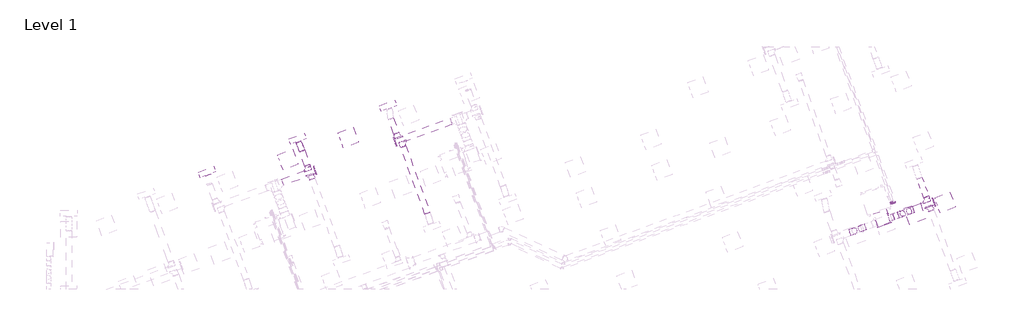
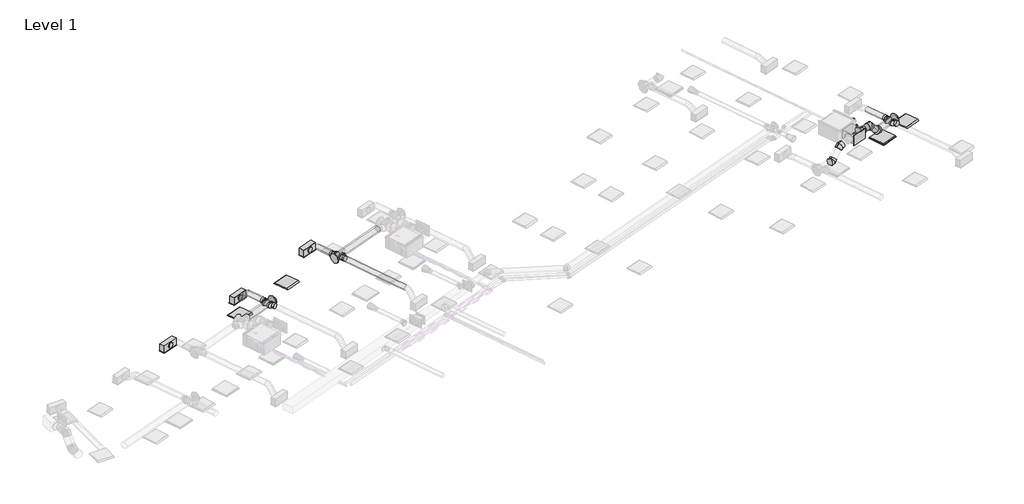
# One storey, part 26 of 30: 15 duct fittings, 11 duct segments, 6 pipe fittings, 4 air terminals, 4 pipe segments, 3 light fixtures.
"""IFC4 building model written with IfcOpenShell, lengths in millimetres."""

from ifc_helpers import new_model, si_unit, point, frame, frame_2d, origin, place, context, project, spatial, polyline, circle_curve, ellipse_curve, trimmed, segment, composite_curve, outline, extrude, transform, mapped, element, save
from ifc_brep_helpers import plane_surface, cylinder_surface, advanced_brep
from components import return_grille_rectangular_hosted_standard_7b12617c, supply_diffuser_with_plenum_linear_slot_hosted_8c379eed, dw144_rectangular_blank_end_standard_1669e3e3, dw144_round_blank_end_standard_e3d0b58b, dw144_round_segmented_bend_slip_joint_standard_636bd9c1, dw144_round_shoe_branch_slip_joint1_standard_2_15a2edd8, dw144_round_shoe_branch_slip_joint1_standard_2_559552f4, dw144_round_shoe_branch_slip_joint1_standard_2_4a92c8a1, light_fixture_1c7c1157, elbow_threaded_gmi_standard_b4aa7741, socket_reducing_threaded_gmi_standard_0a4076b8

model = new_model("IFC4")

# Units and contexts
model_context = context("Model", 3, world=origin())
ifc_project = project(units=[si_unit("LENGTHUNIT", "METRE", prefix="MILLI")], contexts=[model_context])

# Site, building, storey
site = spatial("IfcSite", under=ifc_project)
building = spatial("IfcBuilding", under=site)
storey = spatial("IfcBuildingStorey", under=building, Name="Level 1", Elevation=3900.0)

# Air terminals
placement = place(None, origin())
return_grille_rectangular_hosted_standard_shape = return_grille_rectangular_hosted_standard_7b12617c(model_context)
element("IfcAirTerminal", 1, ObjectType="Return Grille - Rectangular - Hosted : Standard", at=placement, inside=storey, context=model_context, shape_type="MappedRepresentation", body=[
    mapped(return_grille_rectangular_hosted_standard_shape, transform((62341.090285, 14748.7465668, 6700.0), x_axis=(0.939692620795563, 0.3420201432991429, 0.0), y_axis=(0.3420201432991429, -0.939692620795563, 0.0), z_axis=(0.0, 0.0, -1.0))),
])
supply_diffuser_with_plenum_linear_slot_hosted_shape = supply_diffuser_with_plenum_linear_slot_hosted_8c379eed(model_context)
element("IfcAirTerminal", 2, ObjectType="Supply Diffuser with Plenum - Linear Slot - Hosted : 24\" x 8\"-200 In Inlet  4-Slot", at=placement, inside=storey, context=model_context, shape_type="MappedRepresentation", body=[
    mapped(supply_diffuser_with_plenum_linear_slot_hosted_shape, transform((35915.3297037, 16300.7234338, 6500.0), x_axis=(-0.9396926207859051, -0.3420201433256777, 0.0), y_axis=(-0.3420201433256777, 0.9396926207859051, 0.0), z_axis=(0.0, 0.0, -1.0))),
])
element("IfcAirTerminal", 3, ObjectType="Supply Diffuser with Plenum - Linear Slot - Hosted : 24\" x 8\"-200 In Inlet  4-Slot", at=placement, inside=storey, context=model_context, shape_type="MappedRepresentation", body=[
    mapped(supply_diffuser_with_plenum_linear_slot_hosted_shape, transform((39293.7706156, 17542.574693, 6500.0), x_axis=(-0.9396926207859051, -0.3420201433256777, 0.0), y_axis=(-0.3420201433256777, 0.9396926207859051, 0.0), z_axis=(0.0, 0.0, -1.0))),
])
element("IfcAirTerminal", 4, ObjectType="Supply Diffuser with Plenum - Linear Slot - Hosted : 24\" x 8\"-200 In Inlet  4-Slot", at=placement, inside=storey, context=model_context, shape_type="MappedRepresentation", body=[
    mapped(supply_diffuser_with_plenum_linear_slot_hosted_shape, transform((42674.4758588, 18775.4888623, 6500.0), x_axis=(-0.9396926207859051, -0.3420201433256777, 0.0), y_axis=(-0.3420201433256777, 0.9396926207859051, 0.0), z_axis=(0.0, 0.0, -1.0))),
])

# Duct fittings
dw144_rectangular_blank_end_standard_shape = dw144_rectangular_blank_end_standard_1669e3e3(model_context)
element("IfcDuctFitting", 5, ObjectType="DW144 Rectangular Blank End : Standard", at=placement, inside=storey, context=model_context, shape_type="MappedRepresentation", body=[
    mapped(dw144_rectangular_blank_end_standard_shape, transform((61207.3958712, 14336.1155454, 7369.575), x_axis=(0.34202014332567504, -0.9396926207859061, 0.0), y_axis=(0.9396926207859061, 0.34202014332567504, 0.0), z_axis=(0.0, 0.0, 1.0))),
])
dw144_round_blank_end_standard_shape = dw144_round_blank_end_standard_e3d0b58b(model_context)
element("IfcDuctFitting", 6, ObjectType="DW144 Round Blank End : Standard", at=placement, inside=storey, context=model_context, shape_type="MappedRepresentation", body=[
    mapped(dw144_round_blank_end_standard_shape, transform((39936.3185675, 16357.4162175, 6972.2088531), x_axis=(0.9396926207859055, 0.3420201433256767, 0.0), y_axis=(-0.3420201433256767, 0.9396926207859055, 0.0), z_axis=(0.0, 0.0, 1.0))),
])
element("IfcDuctFitting", 7, ObjectType="DW144 Round Blank End : Standard", at=placement, inside=storey, context=model_context, shape_type="MappedRepresentation", body=[
    mapped(dw144_round_blank_end_standard_shape, transform((42948.5285031, 17437.6115173, 6972.2088531), x_axis=(-0.9396926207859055, -0.3420201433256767, 0.0), y_axis=(0.3420201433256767, -0.9396926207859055, 0.0), z_axis=(0.0, 0.0, 1.0))),
])
element("IfcDuctFitting", 8, ObjectType="DW144 Round Blank End : Standard", at=placement, inside=storey, context=model_context, shape_type="MappedRepresentation", body=[
    mapped(dw144_round_blank_end_standard_shape, transform((63040.2710121, 15178.5710827, 6972.2088531), x_axis=(0.9396926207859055, 0.3420201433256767, 0.0), y_axis=(-0.3420201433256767, 0.9396926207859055, 0.0), z_axis=(0.0, 0.0, 1.0))),
])
dw144_round_segmented_bend_slip_joint_standard_shape = dw144_round_segmented_bend_slip_joint_standard_636bd9c1(model_context)
element("IfcDuctFitting", 9, ObjectType="DW144 Round Segmented Bend - Slip Joint : Standard", at=placement, inside=storey, context=model_context, shape_type="MappedRepresentation", body=[
    mapped(dw144_round_segmented_bend_slip_joint_standard_shape, transform((62192.3208978, 14869.9424809, 6972.2088531), x_axis=(0.6644630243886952, 0.24184476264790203, -0.7071067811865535), y_axis=(0.6644630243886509, 0.2418447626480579, 0.7071067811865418), z_axis=(0.3420201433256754, -0.939692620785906, 0.0))),
])
element("IfcDuctFitting", 10, ObjectType="DW144 Round Segmented Bend - Slip Joint : Standard", at=placement, inside=storey, context=model_context, shape_type="MappedRepresentation", body=[
    mapped(dw144_round_segmented_bend_slip_joint_standard_shape, transform((61818.9188618, 14734.0352544, 7369.575), x_axis=(0.9396926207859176, 0.3420201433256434, 0.0), y_axis=(0.0, 0.0, -1.0), z_axis=(-0.3420201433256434, 0.9396926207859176, 0.0))),
])
element("IfcDuctFitting", 11, ObjectType="DW144 Round Segmented Bend - Slip Joint : Standard", at=placement, inside=storey, context=model_context, shape_type="MappedRepresentation", body=[
    mapped(dw144_round_segmented_bend_slip_joint_standard_shape, transform((60017.1840423, 14078.2574101, 6972.2088531), x_axis=(-0.6644630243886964, -0.24184476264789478, -0.7071067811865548), y_axis=(-0.6644630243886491, -0.24184476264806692, 0.7071067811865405), z_axis=(-0.34202014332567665, 0.9396926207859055, 0.0))),
])
element("IfcDuctFitting", 12, ObjectType="DW144 Round Segmented Bend - Slip Joint : Standard", at=placement, inside=storey, context=model_context, shape_type="MappedRepresentation", body=[
    mapped(dw144_round_segmented_bend_slip_joint_standard_shape, transform((60390.5860782, 14214.1646366, 7369.575), x_axis=(-0.9396926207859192, -0.3420201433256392, 0.0), y_axis=(0.0, 0.0, -1.0000000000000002), z_axis=(0.3420201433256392, -0.9396926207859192, 0.0))),
])
dw144_round_shoe_branch_slip_joint1_standard_2_shape = dw144_round_shoe_branch_slip_joint1_standard_2_15a2edd8(model_context)
element("IfcDuctFitting", 13, ObjectType="DW144 Round Shoe Branch - Slip Joint1 : Standard 2", at=placement, inside=storey, context=model_context, shape_type="MappedRepresentation", body=[
    mapped(dw144_round_shoe_branch_slip_joint1_standard_2_shape, transform((39717.3209662, 16410.7298308, 6972.2088531), x_axis=(-0.3420201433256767, 0.9396926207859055, 0.0), y_axis=(0.9396926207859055, 0.3420201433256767, 0.0), z_axis=(0.0, 0.0, -1.0))),
])
element("IfcDuctFitting", 14, ObjectType="DW144 Round Shoe Branch - Slip Joint1 : Standard 2", at=placement, inside=storey, context=model_context, shape_type="MappedRepresentation", body=[
    mapped(dw144_round_shoe_branch_slip_joint1_standard_2_shape, transform((39802.826002, 16175.8066756, 6972.2088531), x_axis=(0.3420201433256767, -0.9396926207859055, 0.0), y_axis=(0.9396926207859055, 0.3420201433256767, 0.0), z_axis=(0.0, 0.0, 1.0))),
])
element("IfcDuctFitting", 15, ObjectType="DW144 Round Shoe Branch - Slip Joint1 : Standard 2", at=placement, inside=storey, context=model_context, shape_type="MappedRepresentation", body=[
    mapped(dw144_round_shoe_branch_slip_joint1_standard_2_shape, transform((62821.2734108, 15231.884696, 6972.2088531), x_axis=(-0.3420201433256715, 0.9396926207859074, 0.0), y_axis=(0.9396926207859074, 0.3420201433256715, 0.0), z_axis=(0.0, 0.0, -1.0))),
])
element("IfcDuctFitting", 16, ObjectType="DW144 Round Shoe Branch - Slip Joint1 : Standard 2", at=placement, inside=storey, context=model_context, shape_type="MappedRepresentation", body=[
    mapped(dw144_round_shoe_branch_slip_joint1_standard_2_shape, transform((62906.7784467, 14996.9615408, 6972.2088531), x_axis=(0.3420201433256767, -0.9396926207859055, 0.0), y_axis=(0.9396926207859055, 0.3420201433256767, 0.0), z_axis=(0.0, 0.0, 1.0))),
])
dw144_round_shoe_branch_slip_joint1_standard_2_2_shape = dw144_round_shoe_branch_slip_joint1_standard_2_559552f4(model_context)
element("IfcDuctFitting", 17, ObjectType="DW144 Round Shoe Branch - Slip Joint1 : Standard 2", at=placement, inside=storey, context=model_context, shape_type="MappedRepresentation", body=[
    mapped(dw144_round_shoe_branch_slip_joint1_standard_2_2_shape, transform((43036.855796, 17602.7822443, 6972.2088531), x_axis=(-0.3420201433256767, 0.9396926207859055, 0.0), y_axis=(0.9396926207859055, 0.3420201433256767, 0.0), z_axis=(0.0, 0.0, -1.0))),
])
element("IfcDuctFitting", 18, ObjectType="DW144 Round Shoe Branch - Slip Joint1 : Standard 2", at=placement, inside=storey, context=model_context, shape_type="MappedRepresentation", body=[
    mapped(dw144_round_shoe_branch_slip_joint1_standard_2_2_shape, transform((43190.912986, 17392.8100327, 6972.2088531), x_axis=(0.3420201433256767, -0.9396926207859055, 0.0), y_axis=(0.9396926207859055, 0.3420201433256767, 0.0), z_axis=(0.0, 0.0, 1.0))),
])
dw144_round_shoe_branch_slip_joint1_standard_2_3_shape = dw144_round_shoe_branch_slip_joint1_standard_2_4a92c8a1(model_context)
element("IfcDuctFitting", 19, ObjectType="DW144 Round Shoe Branch - Slip Joint1 : Standard 2", at=placement, inside=storey, context=model_context, shape_type="MappedRepresentation", body=[
    mapped(dw144_round_shoe_branch_slip_joint1_standard_2_3_shape, transform((61385.964698, 14576.452826, 7369.575), x_axis=(0.9396926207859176, 0.3420201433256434, 0.0), y_axis=(0.3420201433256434, -0.9396926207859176, 0.0), z_axis=(0.0, 0.0, -1.0))),
])

# Duct segments
element("IfcDuctSegment", 20, ObjectType="DW144 Flanged Med Radius Bend / Shoe Branch", at=placement, inside=storey, context=model_context, shape_type="SweptSolid", body=[
    extrude(outline(polyline([(60794.7590495, 14738.8747953), (61264.6053599, 14909.884867), (61442.3190264, 14421.6205812), (60972.472716, 14250.6105095), (60794.7590495, 14738.8747953)])), frame((0.0, 0.0, 7194.575), z_axis=(0.0, 0.0, 1.0), x_axis=(1.0, 0.0, 0.0)), (0.0, 0.0, 1.0), 350.0),
])
element("IfcDuctSegment", 21, ObjectType="DW144 Segmented Bend / Shoe Branch", at=placement, inside=storey, context=model_context, shape_type="SweptSolid", body=[
    extrude(outline(composite_curve([segment(trimmed(circle_curve(frame_2d((0.0, 125.0)), 125.0), [point((125.0, 125.0))], [point((0.0, 0.0))], False, "CARTESIAN"), True, "CONTINUOUS"), segment(trimmed(circle_curve(frame_2d((0.0, 125.0)), 125.0), [point((0.0, 0.0))], [point((-125.0, 125.0))], False, "CARTESIAN"), True, "CONTINUOUS"), segment(trimmed(circle_curve(frame_2d((0.0, 125.0)), 125.0), [point((-125.0, 125.0))], [point((0.0, 250.0))], False, "CARTESIAN"), True, "CONTINUOUS"), segment(trimmed(circle_curve(frame_2d((0.0, 125.0)), 125.0), [point((0.0, 250.0))], [point((125.0, 125.0))], False, "CARTESIAN"), True, "CONTINUOUS")], self_intersect=False)), frame((38741.1276812, 15922.4023106, 7097.2088531), z_axis=(0.9396926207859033, 0.3420201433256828, 0.0), x_axis=(0.3420201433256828, -0.9396926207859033, 0.0)), (0.0, 0.0, 1.0), 1271.8955751),
])
element("IfcDuctSegment", 22, ObjectType="DW144 Segmented Bend / Shoe Branch", at=placement, inside=storey, context=model_context, shape_type="SweptSolid", body=[
    extrude(outline(composite_curve([segment(trimmed(circle_curve(frame_2d((0.0, 100.0)), 100.0), [point((100.0, 100.0))], [point((0.0, 0.0))], False, "CARTESIAN"), True, "CONTINUOUS"), segment(trimmed(circle_curve(frame_2d((0.0, 100.0)), 100.0), [point((0.0, 0.0))], [point((-100.0, 100.0))], False, "CARTESIAN"), True, "CONTINUOUS"), segment(trimmed(circle_curve(frame_2d((0.0, 100.0)), 100.0), [point((-100.0, 100.0))], [point((0.0, 200.0))], False, "CARTESIAN"), True, "CONTINUOUS"), segment(trimmed(circle_curve(frame_2d((0.0, 100.0)), 100.0), [point((0.0, 200.0))], [point((100.0, 100.0))], False, "CARTESIAN"), True, "CONTINUOUS")], self_intersect=False)), frame((39666.0179447, 16551.683724, 7072.2088531), z_axis=(-0.3420201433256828, 0.9396926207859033, 0.0), x_axis=(0.9396926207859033, 0.3420201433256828, 0.0)), (0.0, 0.0, 1.0), 574.8150783),
])
element("IfcDuctSegment", 23, ObjectType="DW144 Segmented Bend / Shoe Branch", at=placement, inside=storey, context=model_context, shape_type="SweptSolid", body=[
    extrude(outline(composite_curve([segment(trimmed(circle_curve(frame_2d((0.0, -125.0)), 125.0), [point((-125.0, -125.0))], [point((0.0, 0.0))], False, "CARTESIAN"), True, "CONTINUOUS"), segment(trimmed(circle_curve(frame_2d((0.0, -125.0)), 125.0), [point((0.0, 0.0))], [point((125.0, -125.0))], False, "CARTESIAN"), True, "CONTINUOUS"), segment(trimmed(circle_curve(frame_2d((0.0, -125.0)), 125.0), [point((125.0, -125.0))], [point((0.0, -250.0))], False, "CARTESIAN"), True, "CONTINUOUS"), segment(trimmed(circle_curve(frame_2d((0.0, -125.0)), 125.0), [point((0.0, -250.0))], [point((-125.0, -125.0))], False, "CARTESIAN"), True, "CONTINUOUS")], self_intersect=False)), frame((42948.5285031, 17437.6115173, 6847.2088531), z_axis=(0.9396926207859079, 0.3420201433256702, 0.0), x_axis=(0.3420201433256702, -0.9396926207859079, 0.0)), (0.0, 0.0, 1.0), 2211.3668834),
])
element("IfcDuctSegment", 24, ObjectType="DW144 Segmented Bend / Shoe Branch", at=placement, inside=storey, context=model_context, shape_type="SweptSolid", body=[
    extrude(outline(composite_curve([segment(trimmed(circle_curve(frame_2d((0.0, -100.0)), 100.0), [point((-100.0, -100.0))], [point((0.0, 0.0))], False, "CARTESIAN"), True, "CONTINUOUS"), segment(trimmed(circle_curve(frame_2d((0.0, -100.0)), 100.0), [point((0.0, 0.0))], [point((100.0, -100.0))], False, "CARTESIAN"), True, "CONTINUOUS"), segment(trimmed(circle_curve(frame_2d((0.0, -100.0)), 100.0), [point((100.0, -100.0))], [point((0.0, -200.0))], False, "CARTESIAN"), True, "CONTINUOUS"), segment(trimmed(circle_curve(frame_2d((0.0, -100.0)), 100.0), [point((0.0, -200.0))], [point((-100.0, -100.0))], False, "CARTESIAN"), True, "CONTINUOUS")], self_intersect=False)), frame((42985.5527745, 17743.7361374, 6872.2088531), z_axis=(-0.34202014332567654, 0.9396926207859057, 0.0), x_axis=(0.9396926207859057, 0.34202014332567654, 0.0)), (0.0, 0.0, 1.0), 590.0),
])
element("IfcDuctSegment", 25, ObjectType="DW144 Segmented Bend / Shoe Branch", at=placement, inside=storey, context=model_context, shape_type="SweptSolid", body=[
    extrude(outline(composite_curve([segment(trimmed(circle_curve(frame_2d((0.0, 100.0)), 100.0), [point((100.0, 100.0))], [point((0.0, 0.0))], False, "CARTESIAN"), True, "CONTINUOUS"), segment(trimmed(circle_curve(frame_2d((0.0, 100.0)), 100.0), [point((0.0, 0.0))], [point((-100.0, 100.0))], False, "CARTESIAN"), True, "CONTINUOUS"), segment(trimmed(circle_curve(frame_2d((0.0, 100.0)), 100.0), [point((-100.0, 100.0))], [point((0.0, 200.0))], False, "CARTESIAN"), True, "CONTINUOUS"), segment(trimmed(circle_curve(frame_2d((0.0, 100.0)), 100.0), [point((0.0, 200.0))], [point((100.0, 100.0))], False, "CARTESIAN"), True, "CONTINUOUS")], self_intersect=False)), frame((44148.5693873, 14761.6706945, 7072.2088531), z_axis=(-0.34202014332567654, 0.9396926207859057, 0.0), x_axis=(0.9396926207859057, 0.34202014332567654, 0.0)), (0.0, 0.0, 1.0), 2650.0),
])
element("IfcDuctSegment", 26, ObjectType="DW144 Segmented Bend / Shoe Branch", at=placement, inside=storey, context=model_context, shape_type="SweptSolid", body=[
    extrude(outline(composite_curve([segment(trimmed(circle_curve(frame_2d((0.0, -125.0)), 125.0), [point((-125.0, -125.0))], [point((0.0, 0.0))], False, "CARTESIAN"), True, "CONTINUOUS"), segment(trimmed(circle_curve(frame_2d((0.0, -125.0)), 125.0), [point((0.0, 0.0))], [point((125.0, -125.0))], False, "CARTESIAN"), True, "CONTINUOUS"), segment(trimmed(circle_curve(frame_2d((0.0, -125.0)), 125.0), [point((125.0, -125.0))], [point((0.0, -250.0))], False, "CARTESIAN"), True, "CONTINUOUS"), segment(trimmed(circle_curve(frame_2d((0.0, -125.0)), 125.0), [point((0.0, -250.0))], [point((-125.0, -125.0))], False, "CARTESIAN"), True, "CONTINUOUS")], self_intersect=False)), frame((62289.6292548, 14905.3598264, 6847.2088531), z_axis=(0.9396926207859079, 0.3420201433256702, 0.0), x_axis=(0.3420201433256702, -0.9396926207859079, 0.0)), (0.0, 0.0, 1.0), 798.8162732),
])
element("IfcDuctSegment", 27, ObjectType="DW144 Segmented Bend / Shoe Branch", at=placement, inside=storey, context=model_context, shape_type="SweptSolid", body=[
    extrude(outline(composite_curve([segment(trimmed(circle_curve(frame_2d((0.0, 100.0)), 100.0), [point((100.0, 100.0))], [point((0.0, 0.0))], False, "CARTESIAN"), True, "CONTINUOUS"), segment(trimmed(circle_curve(frame_2d((0.0, 100.0)), 100.0), [point((0.0, 0.0))], [point((-100.0, 100.0))], False, "CARTESIAN"), True, "CONTINUOUS"), segment(trimmed(circle_curve(frame_2d((0.0, 100.0)), 100.0), [point((-100.0, 100.0))], [point((0.0, 200.0))], False, "CARTESIAN"), True, "CONTINUOUS"), segment(trimmed(circle_curve(frame_2d((0.0, 100.0)), 100.0), [point((0.0, 200.0))], [point((100.0, 100.0))], False, "CARTESIAN"), True, "CONTINUOUS")], self_intersect=False)), frame((62769.9703893, 15372.8385891, 7072.2088531), z_axis=(-0.3420201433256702, 0.9396926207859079, 0.0), x_axis=(0.9396926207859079, 0.3420201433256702, 0.0)), (0.0, 0.0, 1.0), 750.0),
])
element("IfcDuctSegment", 28, ObjectType="DW144 Segmented Bend / Shoe Branch", at=placement, inside=storey, context=model_context, shape_type="SweptSolid", body=[
    extrude(outline(composite_curve([segment(trimmed(circle_curve(frame_2d((0.0, 125.0)), 125.0), [point((125.0, 125.0))], [point((0.0, 0.0))], False, "CARTESIAN"), True, "CONTINUOUS"), segment(trimmed(circle_curve(frame_2d((0.0, 125.0)), 125.0), [point((0.0, 0.0))], [point((-125.0, 125.0))], False, "CARTESIAN"), True, "CONTINUOUS"), segment(trimmed(circle_curve(frame_2d((0.0, 125.0)), 125.0), [point((-125.0, 125.0))], [point((0.0, 250.0))], False, "CARTESIAN"), True, "CONTINUOUS"), segment(trimmed(circle_curve(frame_2d((0.0, 125.0)), 125.0), [point((0.0, 250.0))], [point((125.0, 125.0))], False, "CARTESIAN"), True, "CONTINUOUS")], self_intersect=False)), frame((61550.4109066, 14636.3063511, 7494.575), z_axis=(0.9396926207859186, 0.3420201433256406, 0.0), x_axis=(0.3420201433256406, -0.9396926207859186, 0.0)), (0.0, 0.0, 1.0), 182.1868071),
])
element("IfcDuctSegment", 29, ObjectType="DW144 Segmented Bend / Shoe Branch", at=placement, inside=storey, context=model_context, shape_type="SweptSolid", body=[
    extrude(outline(composite_curve([segment(trimmed(circle_curve(frame_2d((0.0, -125.0)), 125.0), [point((57.2076922, -236.1408113))], [point((-111.1408113, -182.2076923))], False, "CARTESIAN"), True, "CONTINUOUS"), segment(trimmed(circle_curve(frame_2d((0.0, -125.0)), 125.0), [point((-111.1408113, -182.2076923))], [point((-57.2076923, -13.8591886))], False, "CARTESIAN"), True, "CONTINUOUS"), segment(trimmed(circle_curve(frame_2d((0.0, -125.0)), 125.0), [point((-57.2076923, -13.8591886))], [point((111.1408113, -67.7923077))], False, "CARTESIAN"), True, "CONTINUOUS"), segment(trimmed(circle_curve(frame_2d((0.0, -125.0)), 125.0), [point((111.1408113, -67.7923077))], [point((57.2076922, -236.1408113))], False, "CARTESIAN"), True, "CONTINUOUS")], self_intersect=False)), frame((62123.5134987, 14963.1722168, 7085.884105), z_axis=(-0.6644630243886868, -0.2418447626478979, 0.7071067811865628), x_axis=(0.7473211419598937, -0.21503058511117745, 0.6287073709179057)), (0.0, 0.0, 1.0), 354.8538129),
])
element("IfcDuctSegment", 30, ObjectType="Flex - Round", at=placement, inside=storey, context=model_context, shape_type="AdvancedBrep", body=[
    advanced_brep(
    [(39375.4503472, 17057.631197, 6972.2088531), (39469.4196093, 17091.8332113, 6872.2088531), (39563.3888713, 17126.0352256, 6972.2088531), (39469.4196093, 17091.8332113, 7072.2088531), (39366.3000724, 17082.7713704, 6972.2088531), (39468.3712519, 17094.7135495, 6872.2088531), (39553.6634713, 17152.7555425, 6972.2088531), (39451.5922918, 17140.8133634, 7072.2088531), (39243.88775, 17387.2462998, 6654.4), (39337.8570121, 17421.4483142, 6754.4), (39431.8262742, 17455.6503285, 6654.4), (39337.8570121, 17421.4483142, 6554.4), (39354.6030432, 17113.2033068, 6955.1920761), (39468.0578227, 17095.5289923, 6871.7528779), (39541.1583625, 17185.2898444, 6954.016486), (39427.703583, 17202.9641589, 7037.4556843), (39336.031748, 17159.7315718, 6910.3303741), (39455.7796156, 17126.2906417, 6842.0930583), (39522.1403442, 17232.9373231, 6908.0756586), (39402.3924766, 17266.3782532, 6976.3129745), (39318.9928732, 17200.3636656, 6848.646534), (39441.8182951, 17159.583784, 6791.5505271), (39504.8830052, 17274.090382, 6845.6009381), (39382.0575833, 17314.8702636, 6902.6969449), (39302.3936162, 17239.1911435, 6781.0079151), (39425.2190381, 17198.4112619, 6723.9119082), (39488.2837482, 17312.9178598, 6777.9623192), (39365.4583263, 17353.6977415, 6835.0583261), (39285.1362771, 17280.3442024, 6718.5331946), (39404.8841447, 17246.9032723, 6650.2958787), (39471.2448734, 17353.5499537, 6716.278479), (39351.4970058, 17386.9908838, 6784.5157949), (39266.1182589, 17327.9916811, 6672.5923671), (39379.5730383, 17310.3173666, 6589.1531689), (39452.6735782, 17400.0782186, 6671.416777), (39339.2187987, 17417.7525332, 6754.8559752), (39253.61315, 17360.525983, 6654.4), (39355.6843296, 17372.4681621, 6554.4), (39440.976549, 17430.5101551, 6654.4), (39338.9053695, 17418.567976, 6754.4)],
    [
        (0, 1, circle_curve(frame((39469.4196093, 17091.8332113, 6972.2088531), z_axis=(0.3420201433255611, -0.9396926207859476, 0.0), x_axis=(-0.9396926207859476, -0.3420201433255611, 0.0)), 100.0)),
        (1, 2, circle_curve(frame((39469.4196093, 17091.8332113, 6972.2088531), z_axis=(0.3420201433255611, -0.9396926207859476, 0.0), x_axis=(-0.9396926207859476, -0.3420201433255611, 0.0)), 100.0)),
        (2, 3, circle_curve(frame((39469.4196093, 17091.8332113, 6972.2088531), z_axis=(0.3420201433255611, -0.9396926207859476, 0.0), x_axis=(-0.9396926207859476, -0.3420201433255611, 0.0)), 100.0)),
        (3, 0, circle_curve(frame((39469.4196093, 17091.8332113, 6972.2088531), z_axis=(0.3420201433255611, -0.9396926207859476, 0.0), x_axis=(-0.9396926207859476, -0.3420201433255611, 0.0)), 100.0)),
        (0, 4),
        (4, 5, ellipse_curve(frame((39459.9817718, 17117.7634565, 6972.2088531), z_axis=(0.33983489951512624, -0.9098146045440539, 0.2382218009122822), x_axis=(0.050261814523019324, -0.23536541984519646, -0.9706064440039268)), 102.9679003, 100.0)),
        (5, 1),
        (5, 6, ellipse_curve(frame((39459.9817718, 17117.7634565, 6972.2088531), z_axis=(0.33983489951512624, -0.9098146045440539, 0.2382218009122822), x_axis=(0.050261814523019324, -0.23536541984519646, -0.9706064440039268)), 102.9679003, 100.0)),
        (6, 2),
        (6, 7, ellipse_curve(frame((39459.9817718, 17117.7634565, 6972.2088531), z_axis=(0.33983489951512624, -0.9098146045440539, 0.2382218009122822), x_axis=(0.050261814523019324, -0.23536541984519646, -0.9706064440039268)), 102.9679003, 100.0)),
        (7, 3),
        (7, 4, ellipse_curve(frame((39459.9817718, 17117.7634565, 6972.2088531), z_axis=(0.33983489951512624, -0.9098146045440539, 0.2382218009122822), x_axis=(0.050261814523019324, -0.23536541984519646, -0.9706064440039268)), 102.9679003, 100.0)),
        (8, 9, circle_curve(frame((39337.8570121, 17421.4483142, 6654.4), z_axis=(-0.34202014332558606, 0.9396926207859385, 0.0), x_axis=(-0.9396926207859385, -0.34202014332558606, 0.0)), 100.0)),
        (9, 10, circle_curve(frame((39337.8570121, 17421.4483142, 6654.4), z_axis=(-0.34202014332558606, 0.9396926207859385, 0.0), x_axis=(-0.9396926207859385, -0.34202014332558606, 0.0)), 100.0)),
        (10, 11, circle_curve(frame((39337.8570121, 17421.4483142, 6654.4), z_axis=(-0.34202014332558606, 0.9396926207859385, 0.0), x_axis=(-0.9396926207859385, -0.34202014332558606, 0.0)), 100.0)),
        (11, 8, circle_curve(frame((39337.8570121, 17421.4483142, 6654.4), z_axis=(-0.34202014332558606, 0.9396926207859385, 0.0), x_axis=(-0.9396926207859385, -0.34202014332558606, 0.0)), 100.0)),
        (4, 12),
        (12, 13, ellipse_curve(frame((39447.8807028, 17149.2465756, 6954.6042811), z_axis=(0.2994361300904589, -0.7656367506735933, 0.5693315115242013), x_axis=(0.16838055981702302, -0.544940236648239, -0.8213940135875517)), 100.7831059, 100.0)),
        (13, 5),
        (13, 14, ellipse_curve(frame((39447.8807028, 17149.2465756, 6954.6042811), z_axis=(0.2994361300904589, -0.7656367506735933, 0.5693315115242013), x_axis=(0.16838055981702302, -0.544940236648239, -0.8213940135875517)), 100.7831059, 100.0)),
        (14, 6),
        (14, 15, ellipse_curve(frame((39447.8807028, 17149.2465756, 6954.6042811), z_axis=(0.2994361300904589, -0.7656367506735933, 0.5693315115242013), x_axis=(0.16838055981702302, -0.544940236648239, -0.8213940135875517)), 100.7831059, 100.0)),
        (15, 7),
        (15, 12, ellipse_curve(frame((39447.8807028, 17149.2465756, 6954.6042811), z_axis=(0.2994361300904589, -0.7656367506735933, 0.5693315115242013), x_axis=(0.16838055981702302, -0.544940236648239, -0.8213940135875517)), 100.7831059, 100.0)),
        (12, 16),
        (16, 17, ellipse_curve(frame((39429.0860461, 17196.3344474, 6909.2030164), z_axis=(0.25199849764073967, -0.6177035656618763, 0.7449423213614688), x_axis=(0.2334754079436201, -0.7082385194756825, -0.6662487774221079)), 100.6109919, 100.0)),
        (17, 13),
        (17, 18, ellipse_curve(frame((39429.0860461, 17196.3344474, 6909.2030164), z_axis=(0.25199849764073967, -0.6177035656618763, 0.7449423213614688), x_axis=(0.2334754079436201, -0.7082385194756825, -0.6662487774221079)), 100.6109919, 100.0)),
        (18, 14),
        (18, 19, ellipse_curve(frame((39429.0860461, 17196.3344474, 6909.2030164), z_axis=(0.25199849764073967, -0.6177035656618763, 0.7449423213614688), x_axis=(0.2334754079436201, -0.7082385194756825, -0.6662487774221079)), 100.6109919, 100.0)),
        (19, 15),
        (19, 16, ellipse_curve(frame((39429.0860461, 17196.3344474, 6909.2030164), z_axis=(0.25199849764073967, -0.6177035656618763, 0.7449423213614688), x_axis=(0.2334754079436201, -0.7082385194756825, -0.6662487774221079)), 100.6109919, 100.0)),
        (16, 20),
        (20, 21, ellipse_curve(frame((39411.9379392, 17237.2270238, 6847.123736), z_axis=(0.21657997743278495, -0.5117272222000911, 0.8314014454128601), x_axis=(0.2666591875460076, -0.7882225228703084, -0.5546153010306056)), 100.0484947, 100.0)),
        (21, 17),
        (21, 22, ellipse_curve(frame((39411.9379392, 17237.2270238, 6847.123736), z_axis=(0.21657997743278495, -0.5117272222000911, 0.8314014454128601), x_axis=(0.2666591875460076, -0.7882225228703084, -0.5546153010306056)), 100.0484947, 100.0)),
        (22, 18),
        (22, 23, ellipse_curve(frame((39411.9379392, 17237.2270238, 6847.123736), z_axis=(0.21657997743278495, -0.5117272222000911, 0.8314014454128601), x_axis=(0.2666591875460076, -0.7882225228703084, -0.5546153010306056)), 100.0484947, 100.0)),
        (23, 19),
        (23, 20, ellipse_curve(frame((39411.9379392, 17237.2270238, 6847.123736), z_axis=(0.21657997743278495, -0.5117272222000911, 0.8314014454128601), x_axis=(0.2666591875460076, -0.7882225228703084, -0.5546153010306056)), 100.0484947, 100.0)),
        (20, 24),
        (24, 25, ellipse_curve(frame((39395.3386822, 17276.0545017, 6779.4851171), z_axis=(0.2165799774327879, -0.5117272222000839, 0.8314014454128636), x_axis=(-0.26665918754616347, 0.7882225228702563, 0.5546153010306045)), 100.0484947, 100.0)),
        (25, 21),
        (25, 26, ellipse_curve(frame((39395.3386822, 17276.0545017, 6779.4851171), z_axis=(0.2165799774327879, -0.5117272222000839, 0.8314014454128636), x_axis=(-0.26665918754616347, 0.7882225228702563, 0.5546153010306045)), 100.0484947, 100.0)),
        (26, 22),
        (26, 27, ellipse_curve(frame((39395.3386822, 17276.0545017, 6779.4851171), z_axis=(0.2165799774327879, -0.5117272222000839, 0.8314014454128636), x_axis=(-0.26665918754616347, 0.7882225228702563, 0.5546153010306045)), 100.0484947, 100.0)),
        (27, 23),
        (27, 24, ellipse_curve(frame((39395.3386822, 17276.0545017, 6779.4851171), z_axis=(0.2165799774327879, -0.5117272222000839, 0.8314014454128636), x_axis=(-0.26665918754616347, 0.7882225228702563, 0.5546153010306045)), 100.0484947, 100.0)),
        (24, 28),
        (28, 29, ellipse_curve(frame((39378.1905753, 17316.947078, 6717.4058368), z_axis=(0.25199849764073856, -0.617703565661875, 0.7449423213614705), x_axis=(-0.23347540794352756, 0.7082385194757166, 0.6662487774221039)), 100.6109919, 100.0)),
        (29, 25),
        (29, 30, ellipse_curve(frame((39378.1905753, 17316.947078, 6717.4058368), z_axis=(0.25199849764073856, -0.617703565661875, 0.7449423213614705), x_axis=(-0.23347540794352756, 0.7082385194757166, 0.6662487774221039)), 100.6109919, 100.0)),
        (30, 26),
        (30, 31, ellipse_curve(frame((39378.1905753, 17316.947078, 6717.4058368), z_axis=(0.25199849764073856, -0.617703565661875, 0.7449423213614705), x_axis=(-0.23347540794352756, 0.7082385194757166, 0.6662487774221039)), 100.6109919, 100.0)),
        (31, 27),
        (31, 28, ellipse_curve(frame((39378.1905753, 17316.947078, 6717.4058368), z_axis=(0.25199849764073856, -0.617703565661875, 0.7449423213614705), x_axis=(-0.23347540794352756, 0.7082385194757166, 0.6662487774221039)), 100.6109919, 100.0)),
        (28, 32),
        (32, 33, ellipse_curve(frame((39359.3959185, 17364.0349499, 6672.004572), z_axis=(0.2994361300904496, -0.7656367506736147, 0.5693315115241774), x_axis=(-0.16838055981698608, 0.5449402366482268, 0.8213940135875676)), 100.7831059, 100.0)),
        (33, 29),
        (33, 34, ellipse_curve(frame((39359.3959185, 17364.0349499, 6672.004572), z_axis=(0.2994361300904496, -0.7656367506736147, 0.5693315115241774), x_axis=(-0.16838055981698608, 0.5449402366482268, 0.8213940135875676)), 100.7831059, 100.0)),
        (34, 30),
        (34, 35, ellipse_curve(frame((39359.3959185, 17364.0349499, 6672.004572), z_axis=(0.2994361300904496, -0.7656367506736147, 0.5693315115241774), x_axis=(-0.16838055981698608, 0.5449402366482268, 0.8213940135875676)), 100.7831059, 100.0)),
        (35, 31),
        (35, 32, ellipse_curve(frame((39359.3959185, 17364.0349499, 6672.004572), z_axis=(0.2994361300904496, -0.7656367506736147, 0.5693315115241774), x_axis=(-0.16838055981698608, 0.5449402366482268, 0.8213940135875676)), 100.7831059, 100.0)),
        (32, 36),
        (36, 37, ellipse_curve(frame((39347.2948495, 17395.518069, 6654.4), z_axis=(0.3398348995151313, -0.9098146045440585, 0.23822180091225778), x_axis=(-0.050261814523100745, 0.23536541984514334, 0.9706064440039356)), 102.9679003, 100.0)),
        (37, 33),
        (37, 38, ellipse_curve(frame((39347.2948495, 17395.518069, 6654.4), z_axis=(0.3398348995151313, -0.9098146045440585, 0.23822180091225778), x_axis=(-0.050261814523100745, 0.23536541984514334, 0.9706064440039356)), 102.9679003, 100.0)),
        (38, 34),
        (38, 39, ellipse_curve(frame((39347.2948495, 17395.518069, 6654.4), z_axis=(0.3398348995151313, -0.9098146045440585, 0.23822180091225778), x_axis=(-0.050261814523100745, 0.23536541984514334, 0.9706064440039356)), 102.9679003, 100.0)),
        (39, 35),
        (39, 36, ellipse_curve(frame((39347.2948495, 17395.518069, 6654.4), z_axis=(0.3398348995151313, -0.9098146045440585, 0.23822180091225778), x_axis=(-0.050261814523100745, 0.23536541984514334, 0.9706064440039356)), 102.9679003, 100.0)),
        (36, 8),
        (11, 37),
        (10, 38),
        (9, 39),
    ],
    [
        plane_surface(frame((39469.4196093, 17091.8332113, 7072.2088531), z_axis=(0.342020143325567, -0.9396926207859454, 0.0), x_axis=(0.9396926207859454, 0.342020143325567, 0.0))),
        cylinder_surface(frame((39469.4196093, 17091.8332113, 6972.2088531), z_axis=(0.3420201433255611, -0.9396926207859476, 0.0), x_axis=(-0.9396926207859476, -0.3420201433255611, 0.0)), 100.0),
        plane_surface(frame((39337.8570121, 17421.4483142, 6754.4), z_axis=(-0.34202014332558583, 0.9396926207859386, 0.0), x_axis=(0.9396926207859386, 0.34202014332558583, 0.0))),
        cylinder_surface(frame((39459.9817718, 17117.7634565, 6972.2088531), z_axis=(0.3180591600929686, -0.8274884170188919, 0.4627108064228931), x_axis=(-0.9341428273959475, -0.3568781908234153, 0.0038903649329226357)), 100.0),
        cylinder_surface(frame((39447.8807028, 17149.2465756, 6954.6042811), z_axis=(0.27615973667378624, -0.6918867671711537, 0.6671045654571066), x_axis=(-0.9315903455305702, -0.3634047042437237, 0.008743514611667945)), 100.0),
        cylinder_surface(frame((39429.0860461, 17196.3344474, 6909.2030164), z_axis=(0.22477657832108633, -0.5360179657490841, 0.8137322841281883), x_axis=(-0.9296904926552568, -0.36806166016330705, 0.014359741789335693)), 100.0),
        cylinder_surface(frame((39411.9379392, 17237.2270238, 6847.123736), z_axis=(0.20817341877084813, -0.48694039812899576, 0.8482646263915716), x_axis=(-0.9292285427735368, -0.36915313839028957, 0.016133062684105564)), 100.0),
        cylinder_surface(frame((39395.3386822, 17276.0545017, 6779.4851171), z_axis=(0.22477657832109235, -0.5360179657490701, 0.8137322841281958), x_axis=(-0.9296904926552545, -0.3680616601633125, 0.014359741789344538)), 100.0),
        cylinder_surface(frame((39378.1905753, 17316.947078, 6717.4058368), z_axis=(0.27615973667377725, -0.6918867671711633, 0.6671045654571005), x_axis=(-0.9315903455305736, -0.3634047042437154, 0.008743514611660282)), 100.0),
        cylinder_surface(frame((39359.3959185, 17364.0349499, 6672.004572), z_axis=(0.3180591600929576, -0.8274884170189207, 0.4627108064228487), x_axis=(-0.9341428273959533, -0.35687819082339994, 0.0038903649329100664)), 100.0),
        cylinder_surface(frame((39347.2948495, 17395.518069, 6654.4), z_axis=(0.34202014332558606, -0.9396926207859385, 0.0), x_axis=(-0.9396926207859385, -0.34202014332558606, 0.0)), 100.0),
    ],
    [
        (0, [[1, 2, 3, 4]]),
        (1, [[-1, 5, 6, 7]]),
        (1, [[-2, -7, 8, 9]]),
        (1, [[-3, -9, 10, 11]]),
        (1, [[-4, -11, 12, -5]]),
        (2, [[13, 14, 15, 16]]),
        (3, [[-6, 17, 18, 19]]),
        (3, [[-8, -19, 20, 21]]),
        (3, [[-10, -21, 22, 23]]),
        (3, [[-12, -23, 24, -17]]),
        (4, [[-18, 25, 26, 27]]),
        (4, [[-20, -27, 28, 29]]),
        (4, [[-22, -29, 30, 31]]),
        (4, [[-24, -31, 32, -25]]),
        (5, [[-26, 33, 34, 35]]),
        (5, [[-28, -35, 36, 37]]),
        (5, [[-30, -37, 38, 39]]),
        (5, [[-32, -39, 40, -33]]),
        (6, [[-34, 41, 42, 43]]),
        (6, [[-36, -43, 44, 45]]),
        (6, [[-38, -45, 46, 47]]),
        (6, [[-40, -47, 48, -41]]),
        (7, [[-42, 49, 50, 51]]),
        (7, [[-44, -51, 52, 53]]),
        (7, [[-46, -53, 54, 55]]),
        (7, [[-48, -55, 56, -49]]),
        (8, [[-50, 57, 58, 59]]),
        (8, [[-52, -59, 60, 61]]),
        (8, [[-54, -61, 62, 63]]),
        (8, [[-56, -63, 64, -57]]),
        (9, [[-58, 65, 66, 67]]),
        (9, [[-60, -67, 68, 69]]),
        (9, [[-62, -69, 70, 71]]),
        (9, [[-64, -71, 72, -65]]),
        (10, [[-66, 73, -16, 74]]),
        (10, [[-68, -74, -15, 75]]),
        (10, [[-70, -75, -14, 76]]),
        (10, [[-72, -76, -13, -73]]),
    ],
),
])

# Light fixtures
light_fixture_shape = light_fixture_1c7c1157(model_context)
element("IfcLightFixture", 31, ObjectType="ELEKTRA Plain Recessed Lighting Fixture : 24\" x 24\" - 230", at=placement, inside=storey, context=model_context, shape_type="MappedRepresentation", body=[
    mapped(light_fixture_shape, transform((41012.1934102, 17204.5951215, 6500.0), x_axis=(0.9396926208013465, 0.34202014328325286, 0.0), y_axis=(0.34202014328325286, -0.9396926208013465, 0.0), z_axis=(0.0, 0.0, -1.0))),
])
element("IfcLightFixture", 32, ObjectType="ELEKTRA Plain Recessed Lighting Fixture : 24\" x 24\" - 230", at=placement, inside=storey, context=model_context, shape_type="MappedRepresentation", body=[
    mapped(light_fixture_shape, transform((38756.9311203, 16383.7467776, 6500.0), x_axis=(0.9396926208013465, 0.34202014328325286, 0.0), y_axis=(0.34202014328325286, -0.9396926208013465, 0.0), z_axis=(0.0, 0.0, -1.0))),
])
element("IfcLightFixture", 33, ObjectType="ELEKTRA Plain Recessed Lighting Fixture : 24\" x 24\" - 230", at=placement, inside=storey, context=model_context, shape_type="MappedRepresentation", body=[
    mapped(light_fixture_shape, transform((63292.9915749, 14778.7825014, 6700.0), x_axis=(0.9396926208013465, 0.342020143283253, 0.0), y_axis=(0.342020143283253, -0.9396926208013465, 0.0), z_axis=(0.0, 0.0, -1.0))),
])

# Pipe fittings
elbow_threaded_gmi_standard_shape = elbow_threaded_gmi_standard_b4aa7741(model_context)
element("IfcPipeFitting", 34, ObjectType="Elbow - Threaded - GMI : Standard", at=placement, inside=storey, context=model_context, shape_type="MappedRepresentation", body=[
    mapped(elbow_threaded_gmi_standard_shape, transform((61496.0141117, 15183.3215725, 7496.575), x_axis=(0.9396926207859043, 0.34202014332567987, 0.0), y_axis=(0.0, 0.0, -1.0), z_axis=(-0.34202014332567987, 0.9396926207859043, 0.0))),
])
element("IfcPipeFitting", 35, ObjectType="Elbow - Threaded - GMI : Standard", at=placement, inside=storey, context=model_context, shape_type="MappedRepresentation", body=[
    mapped(elbow_threaded_gmi_standard_shape, transform((61496.0141117, 15183.3215725, 6900.0), x_axis=(0.0, 0.0, -1.0), y_axis=(-0.3420201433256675, 0.9396926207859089, 0.0), z_axis=(0.9396926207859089, 0.3420201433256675, 0.0))),
])
element("IfcPipeFitting", 36, ObjectType="Elbow - Threaded - GMI : Standard", at=placement, inside=storey, context=model_context, shape_type="MappedRepresentation", body=[
    mapped(elbow_threaded_gmi_standard_shape, transform((61592.666223, 15164.4398333, 6825.0), x_axis=(0.34202014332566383, -0.9396926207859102, 0.0), y_axis=(0.0, 0.0, 1.0), z_axis=(-0.9396926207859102, -0.34202014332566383, 0.0))),
])
element("IfcPipeFitting", 37, ObjectType="Elbow - Threaded - GMI : Standard", at=placement, inside=storey, context=model_context, shape_type="MappedRepresentation", body=[
    mapped(elbow_threaded_gmi_standard_shape, transform((61592.666223, 15164.4398333, 7217.175), x_axis=(0.9396926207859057, 0.34202014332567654, 0.0), y_axis=(0.0, 0.0, -1.0000000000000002), z_axis=(-0.34202014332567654, 0.9396926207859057, 0.0))),
])
socket_reducing_threaded_gmi_standard_shape = socket_reducing_threaded_gmi_standard_0a4076b8(model_context)
element("IfcPipeFitting", 38, ObjectType="Socket Reducing - Threaded - GMI : Standard", at=placement, inside=storey, context=model_context, shape_type="MappedRepresentation", body=[
    mapped(socket_reducing_threaded_gmi_standard_shape, transform((61439.7413053, 15108.7797151, 7217.175), x_axis=(0.9396926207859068, 0.34202014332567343, 0.0), y_axis=(-0.34202014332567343, 0.9396926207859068, 0.0), z_axis=(0.0, 0.0, 1.0))),
])
element("IfcPipeFitting", 39, ObjectType="Socket Reducing - Threaded - GMI : Standard", at=placement, inside=storey, context=model_context, shape_type="MappedRepresentation", body=[
    mapped(socket_reducing_threaded_gmi_standard_shape, transform((61422.366682, 15156.5161003, 7496.575), x_axis=(0.9396926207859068, 0.34202014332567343, 0.0), y_axis=(-0.34202014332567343, 0.9396926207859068, 0.0), z_axis=(0.0, 0.0, 1.0))),
])

# Pipe segments
element("IfcPipeSegment", 40, ObjectType="Carbon Steel - Threaded", at=placement, inside=storey, context=model_context, shape_type="SweptSolid", body=[
    extrude(outline(composite_curve([segment(trimmed(circle_curve(frame_2d((0.0, -21.45)), 21.45), [point((-21.45, -21.45))], [point((0.0, 0.0))], False, "CARTESIAN"), True, "CONTINUOUS"), segment(trimmed(circle_curve(frame_2d((0.0, -21.45)), 21.45), [point((0.0, 0.0))], [point((21.45, -21.45))], False, "CARTESIAN"), True, "CONTINUOUS"), segment(trimmed(circle_curve(frame_2d((0.0, -21.45)), 21.45), [point((21.45, -21.45))], [point((0.0, -42.9))], False, "CARTESIAN"), True, "CONTINUOUS"), segment(trimmed(circle_curve(frame_2d((0.0, -21.45)), 21.45), [point((0.0, -42.9))], [point((-21.45, -21.45))], False, "CARTESIAN"), True, "CONTINUOUS")], self_intersect=False)), frame((61453.7279438, 15167.9306661, 7475.125), z_axis=(0.9396926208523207, 0.34202014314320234, 0.0), x_axis=(0.34202014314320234, -0.9396926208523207, 0.0)), (0.0, 0.0, 1.0), 18.6260423),
])
element("IfcPipeSegment", 41, ObjectType="Carbon Steel - Threaded", at=placement, inside=storey, context=model_context, shape_type="SweptSolid", body=[
    extrude(outline(composite_curve([segment(trimmed(circle_curve(frame_2d((0.0, 21.45)), 21.45), [point((21.45, 21.45))], [point((0.0, 0.0))], False, "CARTESIAN"), True, "CONTINUOUS"), segment(trimmed(circle_curve(frame_2d((0.0, 21.45)), 21.45), [point((0.0, 0.0))], [point((-21.45, 21.45))], False, "CARTESIAN"), True, "CONTINUOUS"), segment(trimmed(circle_curve(frame_2d((0.0, 21.45)), 21.45), [point((-21.45, 21.45))], [point((0.0, 42.9))], False, "CARTESIAN"), True, "CONTINUOUS"), segment(trimmed(circle_curve(frame_2d((0.0, 21.45)), 21.45), [point((0.0, 42.9))], [point((21.45, 21.45))], False, "CARTESIAN"), True, "CONTINUOUS")], self_intersect=False)), frame((61488.6053216, 15126.5647626, 7238.625), z_axis=(0.9396926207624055, 0.34202014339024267, 0.0), x_axis=(0.34202014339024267, -0.9396926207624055, 0.0)), (0.0, 0.0, 1.0), 65.7392983),
])
element("IfcPipeSegment", 42, ObjectType="Carbon Steel - Threaded", at=placement, inside=storey, context=model_context, shape_type="SweptSolid", body=[
    extrude(outline(composite_curve([segment(trimmed(circle_curve(frame_2d((61496.0141117, 15183.3215725)), 21.45), [point((61517.4641117, 15183.3215725))], [point((61496.0141117, 15161.8715725))], False, "CARTESIAN"), True, "CONTINUOUS"), segment(trimmed(circle_curve(frame_2d((61496.0141117, 15183.3215725)), 21.45), [point((61496.0141117, 15161.8715725))], [point((61474.5641117, 15183.3215725))], False, "CARTESIAN"), True, "CONTINUOUS"), segment(trimmed(circle_curve(frame_2d((61496.0141117, 15183.3215725)), 21.45), [point((61474.5641117, 15183.3215725))], [point((61496.0141117, 15204.7715725))], False, "CARTESIAN"), True, "CONTINUOUS"), segment(trimmed(circle_curve(frame_2d((61496.0141117, 15183.3215725)), 21.45), [point((61496.0141117, 15204.7715725))], [point((61517.4641117, 15183.3215725))], False, "CARTESIAN"), True, "CONTINUOUS")], self_intersect=False)), frame((0.0, 0.0, 6945.0), z_axis=(0.0, 0.0, 1.0), x_axis=(1.0, 0.0, 0.0)), (0.0, 0.0, 1.0), 506.575),
])
element("IfcPipeSegment", 43, ObjectType="Carbon Steel - Threaded", at=placement, inside=storey, context=model_context, shape_type="SweptSolid", body=[
    extrude(outline(composite_curve([segment(trimmed(circle_curve(frame_2d((61592.666223, 15164.4398333)), 21.45), [point((61571.216223, 15164.4398333))], [point((61592.666223, 15185.8898333))], False, "CARTESIAN"), True, "CONTINUOUS"), segment(trimmed(circle_curve(frame_2d((61592.666223, 15164.4398333)), 21.45), [point((61592.666223, 15185.8898333))], [point((61614.116223, 15164.4398333))], False, "CARTESIAN"), True, "CONTINUOUS"), segment(trimmed(circle_curve(frame_2d((61592.666223, 15164.4398333)), 21.45), [point((61614.116223, 15164.4398333))], [point((61592.666223, 15142.9898333))], False, "CARTESIAN"), True, "CONTINUOUS"), segment(trimmed(circle_curve(frame_2d((61592.666223, 15164.4398333)), 21.45), [point((61592.666223, 15142.9898333))], [point((61571.216223, 15164.4398333))], False, "CARTESIAN"), True, "CONTINUOUS")], self_intersect=False)), frame((0.0, 0.0, 6870.0), z_axis=(0.0, 0.0, 1.0), x_axis=(1.0, 0.0, 0.0)), (0.0, 0.0, 1.0), 302.175),
])

save(model, "model.ifc")
